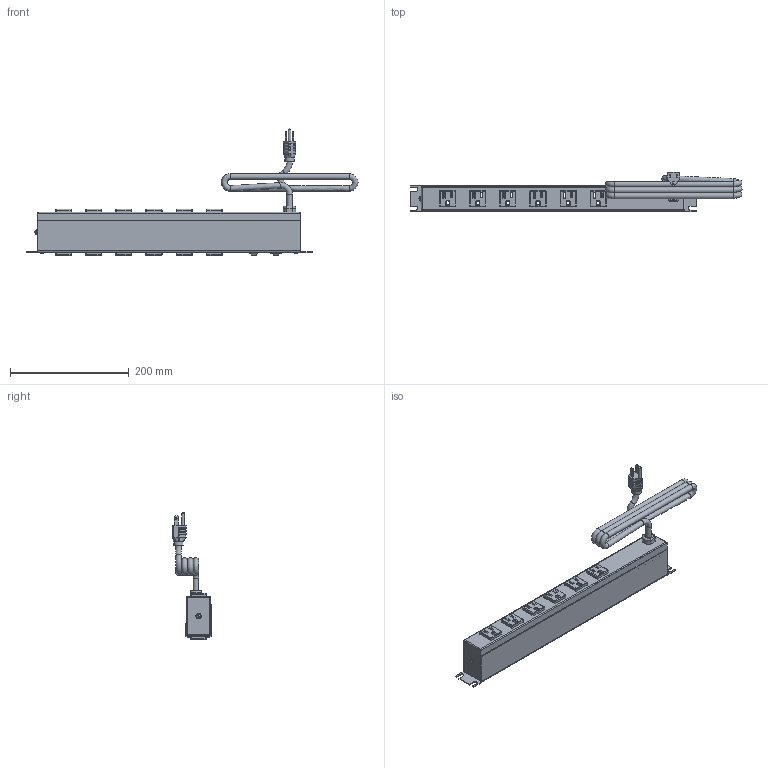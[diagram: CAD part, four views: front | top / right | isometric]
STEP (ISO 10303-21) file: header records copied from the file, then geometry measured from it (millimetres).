
FILE_DESCRIPTION(/* description */ (''),/* implementation_level */ '2;1');
FILE_NAME(/* name */ 'E:\Dutton\Manufacturing\drawings\Dutton Files\Orders\1583H12B1BKXRA\1583H12A1BKXRA.stp',/* time_stamp */ '2020-12-17T07:57:01-05:00',/* author */ ('tfoster'),/* organization */ (''),/* preprocessor_version */ 'ST-DEVELOPER v18',/* originating_system */ 'Autodesk Inventor 2020',/* authorisation */ '');
FILE_SCHEMA (('AUTOMOTIVE_DESIGN { 1 0 10303 214 3 1 1 }'));
Products named in the file (12): 1583T12A1BKX; 1583H12 Front plate; 1582 Back Plate; #25818; toothwasher; 90287A194; Power Switch Assembly; Power Switch; Power Switch pt; Reset Switch; Cored 2; Receptacle
Assembly tree (25 placements, depth 3):
  1583T12A1BKX
    1583H12 Front plate
    1582 Back Plate
    #25818  x4
    toothwasher
    90287A194
    Power Switch Assembly
      Power Switch
      Power Switch pt
    Reset Switch
    Cored 2
    Receptacle  x12
Bounding box: 560.01 x 66.07 x 214.29 mm (x, y, z)
Volume: 427702.8 mm3; surface area: 325870.7 mm2
Topology: 24 solids, 24 shells, 1300 faces, 3557 edges, 2294 vertices
Faces by surface type: plane 829, cylinder 296, bspline 77, sphere 54, cone 30, torus 14
Full cylindrical faces by diameter (mm): 1 x1, 1.803 x3, 1.905 x2, 2.13 x20, 2.286 x1, 2.997 x4, 3 x2, 3.134 x15, 3.505 x12, 4.166 x14, 4.3 x1, 4.775 x1, 4.801 x1, 5.563 x4, 7.849 x1, 9.5 x5, 11 x1, 15.621 x1, 19.05 x1
Entity records: 25624 total; most frequent: CARTESIAN_POINT 8690, ORIENTED_EDGE 3668, DIRECTION 3099, EDGE_CURVE 1834, VERTEX_POINT 1242, LINE 1177, VECTOR 1177, AXIS2_PLACEMENT_3D 961
